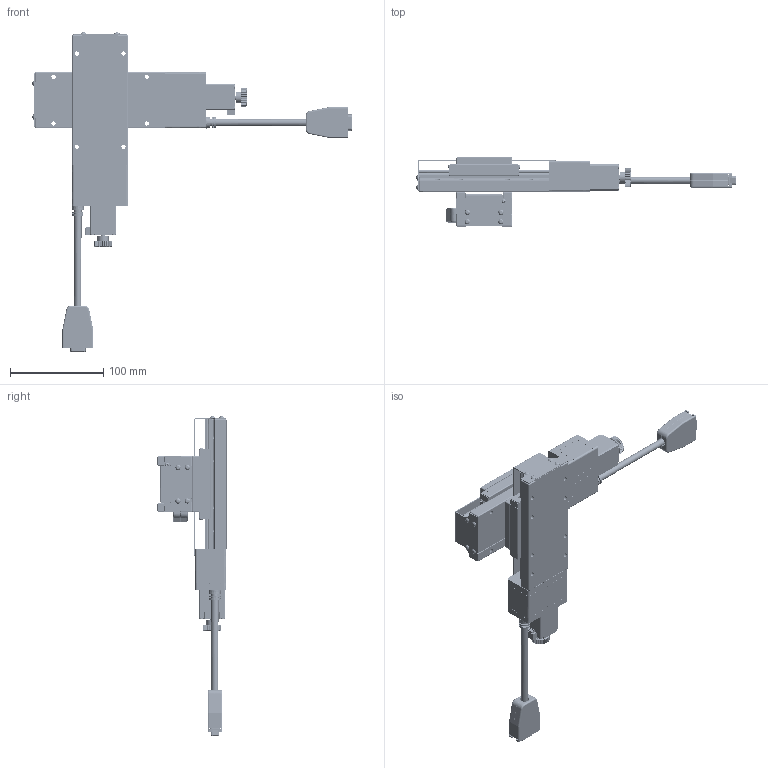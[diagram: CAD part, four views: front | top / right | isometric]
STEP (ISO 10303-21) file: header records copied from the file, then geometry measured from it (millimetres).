
FILE_DESCRIPTION (( 'STEP AP203' ), '1' );
FILE_NAME ('CYC6050-S2?N.STEP', '2023-10-02T01:59:20', ( '' ), ( '' ), 'SwSTEP 2.0', 'SolidWorks 2019', '' );
FILE_SCHEMA (( 'CONFIG_CONTROL_DESIGN' ));
Length unit declared in the file: millimetre
Products named in the file (6): Group2^CXC6050-S2_N(2023_s__)_defeature_GMT.STEP_GMT; CXN60_GMT.STEP_GMT; CXC6050-S2?N.STEP; CYC6050-S2?N; Group1^CXC6050-S2_N(2023_s__)_defeature_GMT.STEP_GMT
Assembly tree (8 placements, depth 3):
  CYC6050-S2?N
    CXC6050-S2?N.STEP
      Group1^CXC6050-S2_N(2023_s__)_defeature_GMT.STEP_GMT
      Group2^CXC6050-S2_N(2023_s__)_defeature_GMT.STEP_GMT
      CXN60_GMT.STEP_GMT
    CXC6050-S2?N.STEP
      Group1^CXC6050-S2_N(2023_s__)_defeature_GMT.STEP_GMT
      Group2^CXC6050-S2_N(2023_s__)_defeature_GMT.STEP_GMT
      CXN60_GMT.STEP_GMT
Bounding box: 342.25 x 74 x 342.25 mm (x, y, z)
Volume: 97535.6 mm3; surface area: 243746.5 mm2
Topology: 44 solids, 98 shells, 8648 faces, 22664 edges, 14130 vertices
Faces by surface type: plane 3484, cylinder 2546, cone 962, torus 832, bspline 540, sphere 284
Entity records: 161800 total; most frequent: CARTESIAN_POINT 69271, ORIENTED_EDGE 22095, DIRECTION 14575, EDGE_CURVE 11188, VERTEX_POINT 7064, B_SPLINE_CURVE_WITH_KNOTS 7005, AXIS2_PLACEMENT_3D 6427, EDGE_LOOP 4546
